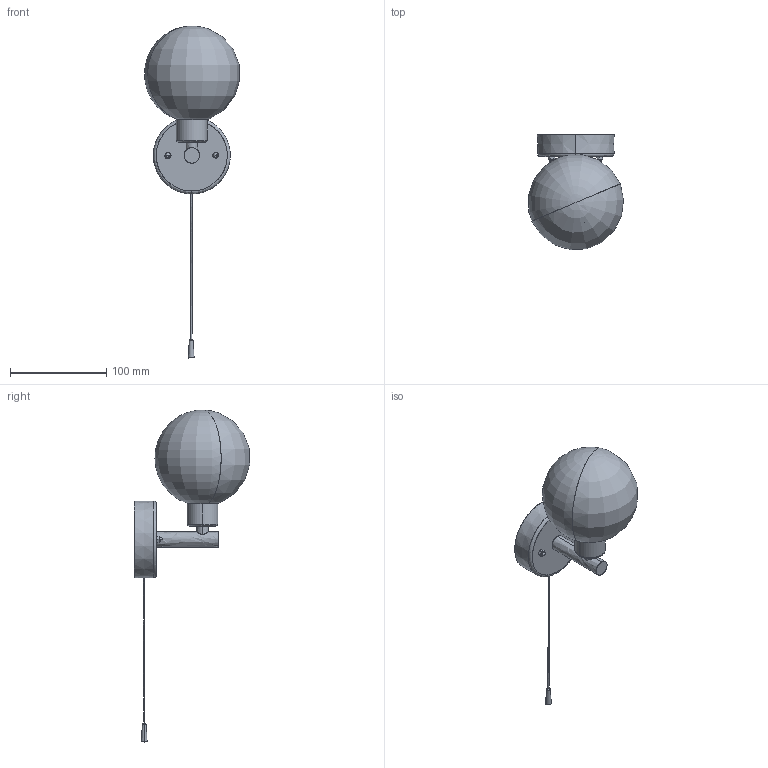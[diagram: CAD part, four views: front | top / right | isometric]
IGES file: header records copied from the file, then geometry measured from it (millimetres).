
Start section: SolidWorks IGES file using analytic representation for surfaces
Global section: file name: Z:\Modele 3D_WWW\_KOLEKCJE_WWW\SIMI-8052\SIMI-8052.IGS; native system: SolidWorks 2021; preprocessor: SolidWorks 2021; author: gabriela.tworek; date: 210721.100711; units: millimetre
Bounding box: 98.92 x 120.09 x 345.68 mm (x, y, z)
Surface area: 94191.2 mm2 (no closed solid volume)
Topology: 0 solids, 0 shells, 112 faces, 2211 edges, 2206 vertices
Faces by surface type: bspline 65, revolution 47
